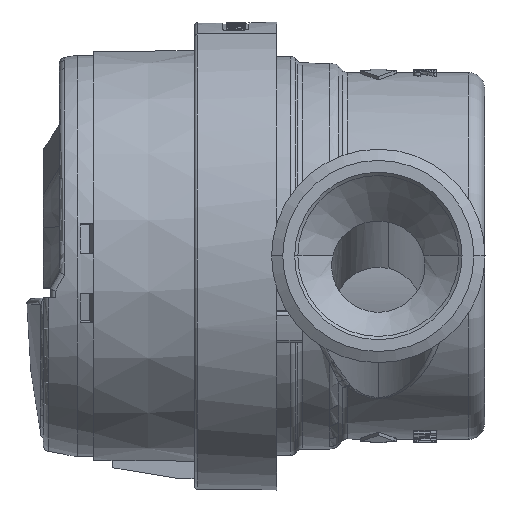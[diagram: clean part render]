
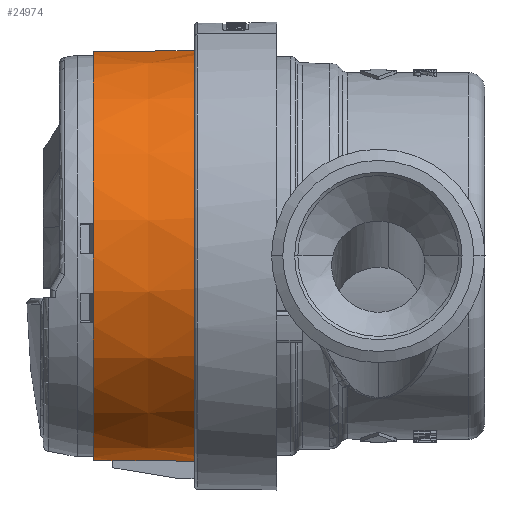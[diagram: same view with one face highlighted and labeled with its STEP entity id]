
A CAD part, left-side view. The second image highlights one B-rep face of the part: STEP entity #24974.
In plain terms, the highlighted conical face has half-angle 0.504 degrees and reference radius 31.9 mm.
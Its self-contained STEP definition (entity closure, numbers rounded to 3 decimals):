
#17 = VERTEX_POINT ( 'NONE', #6262 ) ;
#2392 = LINE ( 'NONE', #38405, #5510 ) ;
#3025 = VERTEX_POINT ( 'NONE', #57094 ) ;
#3192 = CARTESIAN_POINT ( 'NONE',  ( 0., 43.699, 31.9 ) ) ;
#5510 = VECTOR ( 'NONE', #34186, 1000. ) ;
#6262 = CARTESIAN_POINT ( 'NONE',  ( 0., 57.725, -31.777 ) ) ;
#6769 = AXIS2_PLACEMENT_3D ( 'NONE', #51579, #14957, #32354 ) ;
#7513 = FACE_OUTER_BOUND ( 'NONE', #13857, .T. ) ;
#7964 = ORIENTED_EDGE ( 'NONE', *, *, #27537, .T. ) ;
#8399 = CARTESIAN_POINT ( 'NONE',  ( -1., 51.178, -31.819 ) ) ;
#9067 = VERTEX_POINT ( 'NONE', #26648 ) ;
#13748 = DIRECTION ( 'NONE',  ( 0., 0., 1. ) ) ;
#13857 = EDGE_LOOP ( 'NONE', ( #35904, #7964, #39850, #32219, #37701, #28093 ) ) ;
#14271 = CARTESIAN_POINT ( 'NONE',  ( 0., 43.699, 31.9 ) ) ;
#14717 = EDGE_CURVE ( 'NONE', #18231, #3025, #19180, .T. ) ;
#14760 = CARTESIAN_POINT ( 'NONE',  ( 0., 43.699, 0. ) ) ;
#14957 = DIRECTION ( 'NONE',  ( 0., -1., 0. ) ) ;
#15347 = CIRCLE ( 'NONE', #6769, 31.75 ) ;
#16016 = EDGE_CURVE ( 'NONE', #54319, #18231, #44276, .T. ) ;
#17364 = CARTESIAN_POINT ( 'NONE',  ( 0., 43.699, 0. ) ) ;
#17976 = CARTESIAN_POINT ( 'NONE',  ( -1., 44.019, -31.882 ) ) ;
#18231 = VERTEX_POINT ( 'NONE', #14271 ) ;
#18700 = DIRECTION ( 'NONE',  ( 0., -1., 0. ) ) ;
#19180 = CIRCLE ( 'NONE', #47878, 31.9 ) ;
#19915 = CARTESIAN_POINT ( 'NONE',  ( 0., 60.775, 31.75 ) ) ;
#21881 = CARTESIAN_POINT ( 'NONE',  ( -1., 55.543, -31.78 ) ) ;
#24280 = EDGE_CURVE ( 'NONE', #35760, #3025, #25161, .T. ) ;
#24974 = ADVANCED_FACE ( 'NONE', ( #7513 ), #48368, .T. ) ;
#25161 = B_SPLINE_CURVE_WITH_KNOTS ( 'NONE', 3,
 ( #36555, #21881, #35957, #8399, #49488, #27279, #40490, #17976, #26693, #44993 ),
 .UNSPECIFIED., .F., .F.,
 ( 4, 3, 3, 4 ),
 ( -0.007, 0., 0.007, 0.007 ),
 .UNSPECIFIED. ) ;
#25201 = DIRECTION ( 'NONE',  ( 0., 0., -1. ) ) ;
#26648 = CARTESIAN_POINT ( 'NONE',  ( 0., 60.775, -31.75 ) ) ;
#26693 = CARTESIAN_POINT ( 'NONE',  ( -1., 43.859, -31.883 ) ) ;
#27279 = CARTESIAN_POINT ( 'NONE',  ( -1., 46.512, -31.86 ) ) ;
#27537 = EDGE_CURVE ( 'NONE', #9067, #17, #2392, .T. ) ;
#28093 = ORIENTED_EDGE ( 'NONE', *, *, #16016, .F. ) ;
#28432 = CARTESIAN_POINT ( 'NONE',  ( -1., 57.725, -31.761 ) ) ;
#29701 = CARTESIAN_POINT ( 'NONE',  ( 0., 57.725, 0. ) ) ;
#32219 = ORIENTED_EDGE ( 'NONE', *, *, #24280, .T. ) ;
#32354 = DIRECTION ( 'NONE',  ( 0., 0., 1. ) ) ;
#32901 = CIRCLE ( 'NONE', #53097, 31.777 ) ;
#33055 = DIRECTION ( 'NONE',  ( 0., 0., 1. ) ) ;
#33161 = EDGE_CURVE ( 'NONE', #35760, #17, #32901, .T. ) ;
#34186 = DIRECTION ( 'NONE',  ( 0., -1., -0.009 ) ) ;
#35760 = VERTEX_POINT ( 'NONE', #28432 ) ;
#35904 = ORIENTED_EDGE ( 'NONE', *, *, #41834, .T. ) ;
#35957 = CARTESIAN_POINT ( 'NONE',  ( -1., 53.36, -31.799 ) ) ;
#36545 = DIRECTION ( 'NONE',  ( 0., -1., 0. ) ) ;
#36555 = CARTESIAN_POINT ( 'NONE',  ( -1., 57.725, -31.761 ) ) ;
#37701 = ORIENTED_EDGE ( 'NONE', *, *, #14717, .F. ) ;
#38405 = CARTESIAN_POINT ( 'NONE',  ( 0., 43.699, -31.9 ) ) ;
#39492 = DIRECTION ( 'NONE',  ( 0., -1., 0.009 ) ) ;
#39715 = AXIS2_PLACEMENT_3D ( 'NONE', #17364, #36545, #13748 ) ;
#39850 = ORIENTED_EDGE ( 'NONE', *, *, #33161, .F. ) ;
#40490 = CARTESIAN_POINT ( 'NONE',  ( -1., 44.179, -31.88 ) ) ;
#41377 = VECTOR ( 'NONE', #39492, 1000. ) ;
#41834 = EDGE_CURVE ( 'NONE', #54319, #9067, #15347, .T. ) ;
#44276 = LINE ( 'NONE', #3192, #41377 ) ;
#44993 = CARTESIAN_POINT ( 'NONE',  ( -1., 43.699, -31.884 ) ) ;
#47878 = AXIS2_PLACEMENT_3D ( 'NONE', #14760, #18700, #33055 ) ;
#48000 = DIRECTION ( 'NONE',  ( 0., -1., 0. ) ) ;
#48368 = CONICAL_SURFACE ( 'NONE', #39715, 31.9, 0.009 ) ;
#49488 = CARTESIAN_POINT ( 'NONE',  ( -1., 48.845, -31.839 ) ) ;
#51579 = CARTESIAN_POINT ( 'NONE',  ( 0., 60.775, 0. ) ) ;
#53097 = AXIS2_PLACEMENT_3D ( 'NONE', #29701, #48000, #25201 ) ;
#54319 = VERTEX_POINT ( 'NONE', #19915 ) ;
#57094 = CARTESIAN_POINT ( 'NONE',  ( -1., 43.699, -31.884 ) ) ;
